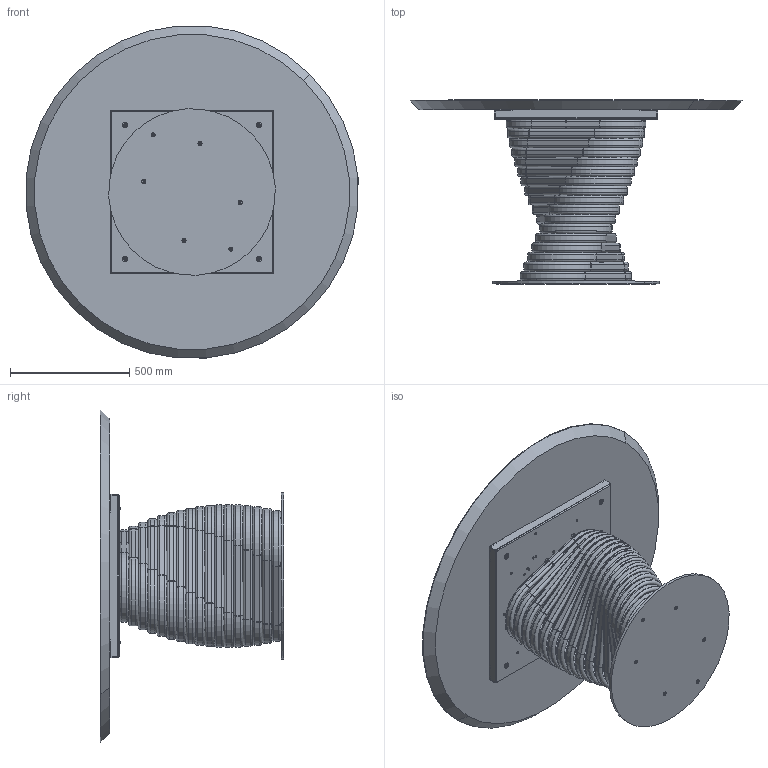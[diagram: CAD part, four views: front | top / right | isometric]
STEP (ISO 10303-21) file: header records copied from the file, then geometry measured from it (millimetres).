
FILE_DESCRIPTION (( 'STEP AP203' ), '1' );
FILE_NAME ('RO06W.STEP', '2024-08-07T13:08:31', ( '' ), ( '' ), 'SwSTEP 2.0', 'SolidWorks 2022', '' );
FILE_SCHEMA (( 'CONFIG_CONTROL_DESIGN' ));
Length unit declared in the file: millimetre
Products named in the file (15): ROBX00000MED-00-Anello rotolo MEDIO_Default<A macchina>; ROBX00000-00-ROTOLO BASE 17 ANELLI; ROB200000-00-PIASTRA BASE_Ø70cm; COLLO TELAIO UNIVERSALE TTAV0801 CON FERRAMENTA_MTG TOP LEGNO-MARMO-KING; M8xXXmm_M8x20mm; ROBX00000INF-00-Anello rotolo INFERIORE_Default<A macchina>; TTAV0801-02-TELAIO UNIVERSALE TONDO; rondella M8_8X24; M8xXXmm_M8x55mm; M8xXXmm_hex_M8X20mm; TTAV0801-02-TELAIO UNIVERSALE TONDO-VASSOIO; ROBX00000SUP-00-Anello rotolo SUPERIORE_Default<A macchina>; W1XCMXX-00-Piani Rotondi legno_D.1400; RO06W; TTAV0801 TELAIO UNIVERSALE TONDO-PIASTRINA
Assembly tree (49 placements, depth 4):
  RO06W
    ROB200000-00-PIASTRA BASE_Ø70cm
    ROBX00000-00-ROTOLO BASE 17 ANELLI
      ROBX00000INF-00-Anello rotolo INFERIORE_Default<A macchina>
      ROBX00000MED-00-Anello rotolo MEDIO_Default<A macchina>  x15
      ROBX00000SUP-00-Anello rotolo SUPERIORE_Default<A macchina>
    M8xXXmm_hex_M8X20mm  x6
    COLLO TELAIO UNIVERSALE TTAV0801 CON FERRAMENTA_MTG TOP LEGNO-MARMO-KING
      TTAV0801-02-TELAIO UNIVERSALE TONDO
        TTAV0801-02-TELAIO UNIVERSALE TONDO-VASSOIO
        TTAV0801 TELAIO UNIVERSALE TONDO-PIASTRINA  x4
      rondella M8_8X24  x4
      M8xXXmm_M8x55mm  x4
    rondella M8_8X24  x4
    M8xXXmm_M8x20mm  x4
    W1XCMXX-00-Piani Rotondi legno_D.1400
Bounding box: 1394.67 x 772 x 1394.67 mm (x, y, z)
Volume: 70424102.3 mm3; surface area: 10044367.3 mm2
Topology: 97 solids, 97 shells, 1790 faces, 4364 edges, 2740 vertices
Faces by surface type: plane 742, cylinder 650, torus 244, cone 154
Entity records: 23748 total; most frequent: CARTESIAN_POINT 5254, DIRECTION 3469, ORIENTED_EDGE 3242, EDGE_CURVE 1621, AXIS2_PLACEMENT_3D 1284, VERTEX_POINT 1039, LINE 901, VECTOR 901
